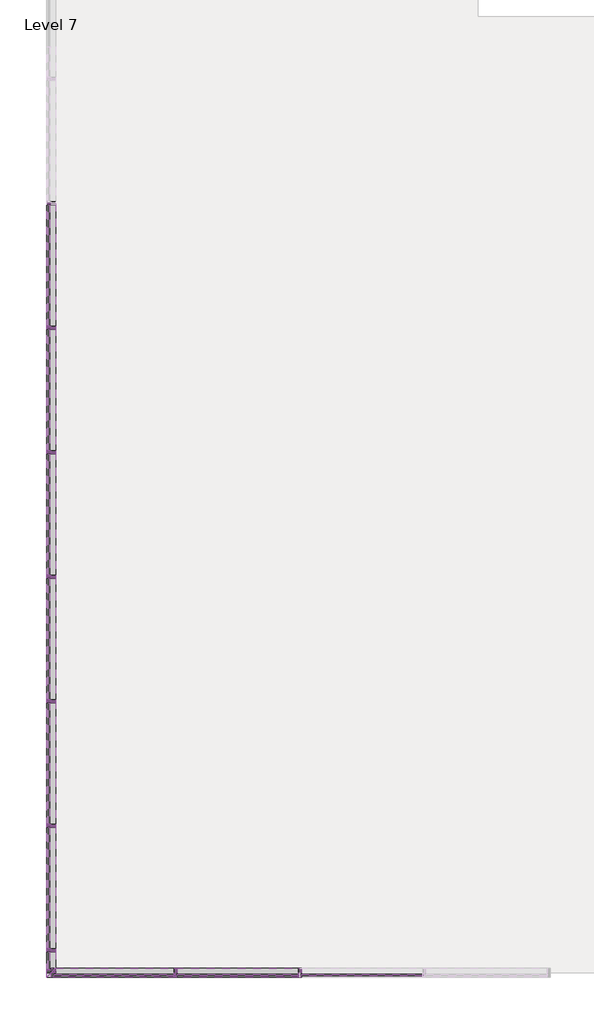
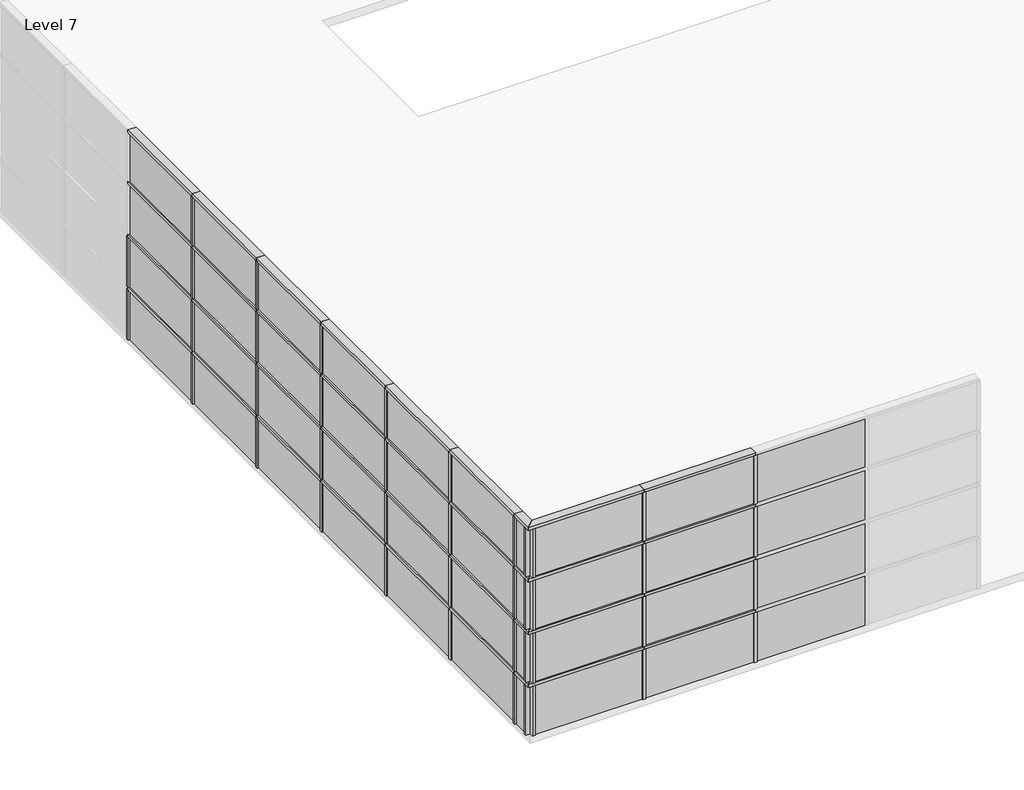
# One storey, part 1 of 5: 78 members, 40 plates.
"""IFC4 building model written with IfcOpenShell, lengths in millimetres."""

from ifc_helpers import new_model, si_unit, origin, place, context, project, spatial, transform, mapped, element, save
from components import rectangular_mullion_50_x_150mm_a053b0ca, rectangular_mullion_50_x_150mm_116cff39, rectangular_mullion_50_x_150mm_aa47fe12, rectangular_mullion_50_x_150mm_3a148f0f, rectangular_mullion_50_x_150mm_a91aaa2b, rectangular_mullion_50_x_150mm_12a430f9, rectangular_mullion_50_x_150mm_7f8cefd5, rectangular_mullion_50_x_150mm_cc09da6b, rectangular_mullion_50_x_150mm_98c2ab41, rectangular_mullion_50_x_150mm_947845bb, system_panel_glazed_92d57a36, system_panel_glazed_751a585c, system_panel_glazed_28c32ad2, system_panel_glazed_08de6f5f, system_panel_glazed_1821110c, system_panel_glazed_9a47c754

model = new_model("IFC4")

# Units and contexts
model_context = context("Model", 3, world=origin())
ifc_project = project(units=[si_unit("LENGTHUNIT", "METRE", prefix="MILLI")], contexts=[model_context])

# Site, building, storey
site = spatial("IfcSite", under=ifc_project)
building = spatial("IfcBuilding", under=site)
storey = spatial("IfcBuildingStorey", under=building, Name="Level 7", Elevation=24000.0)

# Members
placement = place(None, origin())
rectangular_mullion_50_x_150mm_shape = rectangular_mullion_50_x_150mm_a053b0ca(model_context)
element("IfcMember", 1, ObjectType="Rectangular Mullion : 50 x 150mm", at=placement, inside=storey, context=model_context, shape_type="MappedRepresentation", body=[
    mapped(rectangular_mullion_50_x_150mm_shape, transform((-3587.173406, -21988.7417365, 24025.0), x_axis=(1.0, 0.0, 0.0), y_axis=(0.0, -1.0, 0.0), z_axis=(0.0, 0.0, -0.9999999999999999))),
])
element("IfcMember", 2, ObjectType="Rectangular Mullion : 50 x 150mm", at=placement, inside=storey, context=model_context, shape_type="MappedRepresentation", body=[
    mapped(rectangular_mullion_50_x_150mm_shape, transform((-3587.173406, -21988.7417365, 25025.0), x_axis=(1.0, 0.0, 0.0), y_axis=(0.0, -1.0, 0.0), z_axis=(0.0, 0.0, -0.9999999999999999))),
])
element("IfcMember", 3, ObjectType="Rectangular Mullion : 50 x 150mm", at=placement, inside=storey, context=model_context, shape_type="MappedRepresentation", body=[
    mapped(rectangular_mullion_50_x_150mm_shape, transform((-3587.173406, -21988.7417365, 26025.0), x_axis=(1.0, 0.0, 0.0), y_axis=(0.0, -1.0, 0.0), z_axis=(0.0, 0.0, -0.9999999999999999))),
])
element("IfcMember", 4, ObjectType="Rectangular Mullion : 50 x 150mm", at=placement, inside=storey, context=model_context, shape_type="MappedRepresentation", body=[
    mapped(rectangular_mullion_50_x_150mm_shape, transform((-1587.173406, -21988.7417365, 24025.0), x_axis=(1.0, 0.0, 0.0), y_axis=(0.0, -1.0, 0.0), z_axis=(0.0, 0.0, -0.9999999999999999))),
])
element("IfcMember", 5, ObjectType="Rectangular Mullion : 50 x 150mm", at=placement, inside=storey, context=model_context, shape_type="MappedRepresentation", body=[
    mapped(rectangular_mullion_50_x_150mm_shape, transform((-1587.173406, -21988.7417365, 25025.0), x_axis=(1.0, 0.0, 0.0), y_axis=(0.0, -1.0, 0.0), z_axis=(0.0, 0.0, -0.9999999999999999))),
])
element("IfcMember", 6, ObjectType="Rectangular Mullion : 50 x 150mm", at=placement, inside=storey, context=model_context, shape_type="MappedRepresentation", body=[
    mapped(rectangular_mullion_50_x_150mm_shape, transform((-1587.173406, -21988.7417365, 26025.0), x_axis=(1.0, 0.0, 0.0), y_axis=(0.0, -1.0, 0.0), z_axis=(0.0, 0.0, -0.9999999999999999))),
])
element("IfcMember", 7, ObjectType="Rectangular Mullion : 50 x 150mm", at=placement, inside=storey, context=model_context, shape_type="MappedRepresentation", body=[
    mapped(rectangular_mullion_50_x_150mm_shape, transform((-5587.173406, -9624.0160434, 24025.0), x_axis=(0.0, -1.0, 0.0), y_axis=(-1.0, 0.0, 0.0), z_axis=(0.0, 0.0, -0.9999999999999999))),
])
element("IfcMember", 8, ObjectType="Rectangular Mullion : 50 x 150mm", at=placement, inside=storey, context=model_context, shape_type="MappedRepresentation", body=[
    mapped(rectangular_mullion_50_x_150mm_shape, transform((-5587.173406, -9624.0160434, 25025.0), x_axis=(0.0, -1.0, 0.0), y_axis=(-1.0, 0.0, 0.0), z_axis=(0.0, 0.0, -0.9999999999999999))),
])
element("IfcMember", 9, ObjectType="Rectangular Mullion : 50 x 150mm", at=placement, inside=storey, context=model_context, shape_type="MappedRepresentation", body=[
    mapped(rectangular_mullion_50_x_150mm_shape, transform((-5587.173406, -11624.0160434, 24025.0), x_axis=(0.0, -1.0, 0.0), y_axis=(-1.0, 0.0, 0.0), z_axis=(0.0, 0.0, -0.9999999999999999))),
])
element("IfcMember", 10, ObjectType="Rectangular Mullion : 50 x 150mm", at=placement, inside=storey, context=model_context, shape_type="MappedRepresentation", body=[
    mapped(rectangular_mullion_50_x_150mm_shape, transform((-5587.173406, -11624.0160434, 25025.0), x_axis=(0.0, -1.0, 0.0), y_axis=(-1.0, 0.0, 0.0), z_axis=(0.0, 0.0, -0.9999999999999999))),
])
element("IfcMember", 11, ObjectType="Rectangular Mullion : 50 x 150mm", at=placement, inside=storey, context=model_context, shape_type="MappedRepresentation", body=[
    mapped(rectangular_mullion_50_x_150mm_shape, transform((-5587.173406, -11624.0160434, 26025.0), x_axis=(0.0, -1.0, 0.0), y_axis=(-1.0, 0.0, 0.0), z_axis=(0.0, 0.0, -0.9999999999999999))),
])
element("IfcMember", 12, ObjectType="Rectangular Mullion : 50 x 150mm", at=placement, inside=storey, context=model_context, shape_type="MappedRepresentation", body=[
    mapped(rectangular_mullion_50_x_150mm_shape, transform((-5587.173406, -13624.0160434, 24025.0), x_axis=(0.0, -1.0, 0.0), y_axis=(-1.0, 0.0, 0.0), z_axis=(0.0, 0.0, -0.9999999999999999))),
])
element("IfcMember", 13, ObjectType="Rectangular Mullion : 50 x 150mm", at=placement, inside=storey, context=model_context, shape_type="MappedRepresentation", body=[
    mapped(rectangular_mullion_50_x_150mm_shape, transform((-5587.173406, -13624.0160434, 25025.0), x_axis=(0.0, -1.0, 0.0), y_axis=(-1.0, 0.0, 0.0), z_axis=(0.0, 0.0, -0.9999999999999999))),
])
element("IfcMember", 14, ObjectType="Rectangular Mullion : 50 x 150mm", at=placement, inside=storey, context=model_context, shape_type="MappedRepresentation", body=[
    mapped(rectangular_mullion_50_x_150mm_shape, transform((-5587.173406, -13624.0160434, 26025.0), x_axis=(0.0, -1.0, 0.0), y_axis=(-1.0, 0.0, 0.0), z_axis=(0.0, 0.0, -0.9999999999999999))),
])
element("IfcMember", 15, ObjectType="Rectangular Mullion : 50 x 150mm", at=placement, inside=storey, context=model_context, shape_type="MappedRepresentation", body=[
    mapped(rectangular_mullion_50_x_150mm_shape, transform((-5587.173406, -15624.0160434, 24025.0), x_axis=(0.0, -1.0, 0.0), y_axis=(-1.0, 0.0, 0.0), z_axis=(0.0, 0.0, -0.9999999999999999))),
])
element("IfcMember", 16, ObjectType="Rectangular Mullion : 50 x 150mm", at=placement, inside=storey, context=model_context, shape_type="MappedRepresentation", body=[
    mapped(rectangular_mullion_50_x_150mm_shape, transform((-5587.173406, -15624.0160434, 25025.0), x_axis=(0.0, -1.0, 0.0), y_axis=(-1.0, 0.0, 0.0), z_axis=(0.0, 0.0, -0.9999999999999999))),
])
element("IfcMember", 17, ObjectType="Rectangular Mullion : 50 x 150mm", at=placement, inside=storey, context=model_context, shape_type="MappedRepresentation", body=[
    mapped(rectangular_mullion_50_x_150mm_shape, transform((-5587.173406, -15624.0160434, 26025.0), x_axis=(0.0, -1.0, 0.0), y_axis=(-1.0, 0.0, 0.0), z_axis=(0.0, 0.0, -0.9999999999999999))),
])
element("IfcMember", 18, ObjectType="Rectangular Mullion : 50 x 150mm", at=placement, inside=storey, context=model_context, shape_type="MappedRepresentation", body=[
    mapped(rectangular_mullion_50_x_150mm_shape, transform((-5587.173406, -17624.0160434, 24025.0), x_axis=(0.0, -1.0, 0.0), y_axis=(-1.0, 0.0, 0.0), z_axis=(0.0, 0.0, -0.9999999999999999))),
])
element("IfcMember", 19, ObjectType="Rectangular Mullion : 50 x 150mm", at=placement, inside=storey, context=model_context, shape_type="MappedRepresentation", body=[
    mapped(rectangular_mullion_50_x_150mm_shape, transform((-5587.173406, -17624.0160434, 25025.0), x_axis=(0.0, -1.0, 0.0), y_axis=(-1.0, 0.0, 0.0), z_axis=(0.0, 0.0, -0.9999999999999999))),
])
element("IfcMember", 20, ObjectType="Rectangular Mullion : 50 x 150mm", at=placement, inside=storey, context=model_context, shape_type="MappedRepresentation", body=[
    mapped(rectangular_mullion_50_x_150mm_shape, transform((-5587.173406, -17624.0160434, 26025.0), x_axis=(0.0, -1.0, 0.0), y_axis=(-1.0, 0.0, 0.0), z_axis=(0.0, 0.0, -0.9999999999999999))),
])
element("IfcMember", 21, ObjectType="Rectangular Mullion : 50 x 150mm", at=placement, inside=storey, context=model_context, shape_type="MappedRepresentation", body=[
    mapped(rectangular_mullion_50_x_150mm_shape, transform((-5587.173406, -19624.0160434, 24025.0), x_axis=(0.0, -1.0, 0.0), y_axis=(-1.0, 0.0, 0.0), z_axis=(0.0, 0.0, -0.9999999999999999))),
])
element("IfcMember", 22, ObjectType="Rectangular Mullion : 50 x 150mm", at=placement, inside=storey, context=model_context, shape_type="MappedRepresentation", body=[
    mapped(rectangular_mullion_50_x_150mm_shape, transform((-5587.173406, -19624.0160434, 25025.0), x_axis=(0.0, -1.0, 0.0), y_axis=(-1.0, 0.0, 0.0), z_axis=(0.0, 0.0, -0.9999999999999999))),
])
element("IfcMember", 23, ObjectType="Rectangular Mullion : 50 x 150mm", at=placement, inside=storey, context=model_context, shape_type="MappedRepresentation", body=[
    mapped(rectangular_mullion_50_x_150mm_shape, transform((-5587.173406, -19624.0160434, 26025.0), x_axis=(0.0, -1.0, 0.0), y_axis=(-1.0, 0.0, 0.0), z_axis=(0.0, 0.0, -0.9999999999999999))),
])
element("IfcMember", 24, ObjectType="Rectangular Mullion : 50 x 150mm", at=placement, inside=storey, context=model_context, shape_type="MappedRepresentation", body=[
    mapped(rectangular_mullion_50_x_150mm_shape, transform((-5587.173406, -21624.0160434, 24025.0), x_axis=(0.0, -1.0, 0.0), y_axis=(-1.0, 0.0, 0.0), z_axis=(0.0, 0.0, -0.9999999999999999))),
])
element("IfcMember", 25, ObjectType="Rectangular Mullion : 50 x 150mm", at=placement, inside=storey, context=model_context, shape_type="MappedRepresentation", body=[
    mapped(rectangular_mullion_50_x_150mm_shape, transform((-5587.173406, -21624.0160434, 25025.0), x_axis=(0.0, -1.0, 0.0), y_axis=(-1.0, 0.0, 0.0), z_axis=(0.0, 0.0, -0.9999999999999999))),
])
element("IfcMember", 26, ObjectType="Rectangular Mullion : 50 x 150mm", at=placement, inside=storey, context=model_context, shape_type="MappedRepresentation", body=[
    mapped(rectangular_mullion_50_x_150mm_shape, transform((-5587.173406, -21624.0160434, 26025.0), x_axis=(0.0, -1.0, 0.0), y_axis=(-1.0, 0.0, 0.0), z_axis=(0.0, 0.0, -0.9999999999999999))),
])
rectangular_mullion_50_x_150mm_2_shape = rectangular_mullion_50_x_150mm_116cff39(model_context)
element("IfcMember", 27, ObjectType="Rectangular Mullion : 50 x 150mm", at=placement, inside=storey, context=model_context, shape_type="MappedRepresentation", body=[
    mapped(rectangular_mullion_50_x_150mm_2_shape, transform((-3587.173406, -21988.7417365, 27025.0), x_axis=(1.0, 0.0, 0.0), y_axis=(0.0, -1.0, 0.0), z_axis=(0.0, 0.0, -1.0))),
])
element("IfcMember", 28, ObjectType="Rectangular Mullion : 50 x 150mm", at=placement, inside=storey, context=model_context, shape_type="MappedRepresentation", body=[
    mapped(rectangular_mullion_50_x_150mm_2_shape, transform((-1587.173406, -21988.7417365, 27025.0), x_axis=(1.0, 0.0, 0.0), y_axis=(0.0, -1.0, 0.0), z_axis=(0.0, 0.0, -1.0))),
])
element("IfcMember", 29, ObjectType="Rectangular Mullion : 50 x 150mm", at=placement, inside=storey, context=model_context, shape_type="MappedRepresentation", body=[
    mapped(rectangular_mullion_50_x_150mm_2_shape, transform((-5587.173406, -11624.0160434, 27025.0), x_axis=(0.0, -1.0, 0.0), y_axis=(-1.0, 0.0, 0.0), z_axis=(0.0, 0.0, -1.0))),
])
element("IfcMember", 30, ObjectType="Rectangular Mullion : 50 x 150mm", at=placement, inside=storey, context=model_context, shape_type="MappedRepresentation", body=[
    mapped(rectangular_mullion_50_x_150mm_2_shape, transform((-5587.173406, -13624.0160434, 27025.0), x_axis=(0.0, -1.0, 0.0), y_axis=(-1.0, 0.0, 0.0), z_axis=(0.0, 0.0, -1.0))),
])
element("IfcMember", 31, ObjectType="Rectangular Mullion : 50 x 150mm", at=placement, inside=storey, context=model_context, shape_type="MappedRepresentation", body=[
    mapped(rectangular_mullion_50_x_150mm_2_shape, transform((-5587.173406, -15624.0160434, 27025.0), x_axis=(0.0, -1.0, 0.0), y_axis=(-1.0, 0.0, 0.0), z_axis=(0.0, 0.0, -1.0))),
])
element("IfcMember", 32, ObjectType="Rectangular Mullion : 50 x 150mm", at=placement, inside=storey, context=model_context, shape_type="MappedRepresentation", body=[
    mapped(rectangular_mullion_50_x_150mm_2_shape, transform((-5587.173406, -17624.0160434, 27025.0), x_axis=(0.0, -1.0, 0.0), y_axis=(-1.0, 0.0, 0.0), z_axis=(0.0, 0.0, -1.0))),
])
element("IfcMember", 33, ObjectType="Rectangular Mullion : 50 x 150mm", at=placement, inside=storey, context=model_context, shape_type="MappedRepresentation", body=[
    mapped(rectangular_mullion_50_x_150mm_2_shape, transform((-5587.173406, -19624.0160434, 27025.0), x_axis=(0.0, -1.0, 0.0), y_axis=(-1.0, 0.0, 0.0), z_axis=(0.0, 0.0, -1.0))),
])
element("IfcMember", 34, ObjectType="Rectangular Mullion : 50 x 150mm", at=placement, inside=storey, context=model_context, shape_type="MappedRepresentation", body=[
    mapped(rectangular_mullion_50_x_150mm_2_shape, transform((-5587.173406, -21624.0160434, 27025.0), x_axis=(0.0, -1.0, 0.0), y_axis=(-1.0, 0.0, 0.0), z_axis=(0.0, 0.0, -1.0))),
])
rectangular_mullion_50_x_150mm_3_shape = rectangular_mullion_50_x_150mm_aa47fe12(model_context)
element("IfcMember", 35, ObjectType="Rectangular Mullion : 50 x 150mm", at=placement, inside=storey, context=model_context, shape_type="MappedRepresentation", body=[
    mapped(rectangular_mullion_50_x_150mm_3_shape, transform((-1587.173406, -21988.7417365, 28000.0), x_axis=(0.0, 0.0, 1.0), y_axis=(0.0, -1.0, 0.0), z_axis=(1.0, 0.0, 0.0))),
])
element("IfcMember", 36, ObjectType="Rectangular Mullion : 50 x 150mm", at=placement, inside=storey, context=model_context, shape_type="MappedRepresentation", body=[
    mapped(rectangular_mullion_50_x_150mm_3_shape, transform((-5587.173406, -11624.0160434, 28000.0), x_axis=(0.0, 0.0, 1.0), y_axis=(-1.0, 0.0, 0.0), z_axis=(0.0, -1.0, 0.0))),
])
element("IfcMember", 37, ObjectType="Rectangular Mullion : 50 x 150mm", at=placement, inside=storey, context=model_context, shape_type="MappedRepresentation", body=[
    mapped(rectangular_mullion_50_x_150mm_3_shape, transform((-5587.173406, -13624.0160434, 28000.0), x_axis=(0.0, 0.0, 1.0), y_axis=(-1.0, 0.0, 0.0), z_axis=(0.0, -1.0, 0.0))),
])
element("IfcMember", 38, ObjectType="Rectangular Mullion : 50 x 150mm", at=placement, inside=storey, context=model_context, shape_type="MappedRepresentation", body=[
    mapped(rectangular_mullion_50_x_150mm_3_shape, transform((-5587.173406, -15624.0160434, 28000.0), x_axis=(0.0, 0.0, 1.0), y_axis=(-1.0, 0.0, 0.0), z_axis=(0.0, -1.0, 0.0))),
])
element("IfcMember", 39, ObjectType="Rectangular Mullion : 50 x 150mm", at=placement, inside=storey, context=model_context, shape_type="MappedRepresentation", body=[
    mapped(rectangular_mullion_50_x_150mm_3_shape, transform((-5587.173406, -17624.0160434, 28000.0), x_axis=(0.0, 0.0, 1.0), y_axis=(-1.0, 0.0, 0.0), z_axis=(0.0, -1.0, 0.0))),
])
element("IfcMember", 40, ObjectType="Rectangular Mullion : 50 x 150mm", at=placement, inside=storey, context=model_context, shape_type="MappedRepresentation", body=[
    mapped(rectangular_mullion_50_x_150mm_3_shape, transform((-5587.173406, -19624.0160434, 28000.0), x_axis=(0.0, 0.0, 1.0), y_axis=(-1.0, 0.0, 0.0), z_axis=(0.0, -1.0, 0.0))),
])
element("IfcMember", 41, ObjectType="Rectangular Mullion : 50 x 150mm", at=placement, inside=storey, context=model_context, shape_type="MappedRepresentation", body=[
    mapped(rectangular_mullion_50_x_150mm_3_shape, transform((-5587.173406, -21624.0160434, 28000.0), x_axis=(0.0, 0.0, 1.0), y_axis=(-1.0, 0.0, 0.0), z_axis=(0.0, -1.0, 0.0))),
])
rectangular_mullion_50_x_150mm_4_shape = rectangular_mullion_50_x_150mm_3a148f0f(model_context)
element("IfcMember", 42, ObjectType="Rectangular Mullion : 50 x 150mm", at=placement, inside=storey, context=model_context, shape_type="MappedRepresentation", body=[
    mapped(rectangular_mullion_50_x_150mm_4_shape, transform((-1587.173406, -21988.7417365, 25000.0), x_axis=(0.0, 0.0, 1.0), y_axis=(0.0, -1.0, 0.0), z_axis=(1.0, 0.0, 0.0))),
])
element("IfcMember", 43, ObjectType="Rectangular Mullion : 50 x 150mm", at=placement, inside=storey, context=model_context, shape_type="MappedRepresentation", body=[
    mapped(rectangular_mullion_50_x_150mm_4_shape, transform((-1587.173406, -21988.7417365, 26000.0), x_axis=(0.0, 0.0, 1.0), y_axis=(0.0, -1.0, 0.0), z_axis=(1.0, 0.0, 0.0))),
])
element("IfcMember", 44, ObjectType="Rectangular Mullion : 50 x 150mm", at=placement, inside=storey, context=model_context, shape_type="MappedRepresentation", body=[
    mapped(rectangular_mullion_50_x_150mm_4_shape, transform((-1587.173406, -21988.7417365, 27000.0), x_axis=(0.0, 0.0, 1.0), y_axis=(0.0, -1.0, 0.0), z_axis=(1.0, 0.0, 0.0))),
])
element("IfcMember", 45, ObjectType="Rectangular Mullion : 50 x 150mm", at=placement, inside=storey, context=model_context, shape_type="MappedRepresentation", body=[
    mapped(rectangular_mullion_50_x_150mm_4_shape, transform((-5587.173406, -11624.0160434, 25000.0), x_axis=(0.0, 0.0, 1.0), y_axis=(-1.0, 0.0, 0.0), z_axis=(0.0, -1.0, 0.0))),
])
element("IfcMember", 46, ObjectType="Rectangular Mullion : 50 x 150mm", at=placement, inside=storey, context=model_context, shape_type="MappedRepresentation", body=[
    mapped(rectangular_mullion_50_x_150mm_4_shape, transform((-5587.173406, -13624.0160434, 25000.0), x_axis=(0.0, 0.0, 1.0), y_axis=(-1.0, 0.0, 0.0), z_axis=(0.0, -1.0, 0.0))),
])
element("IfcMember", 47, ObjectType="Rectangular Mullion : 50 x 150mm", at=placement, inside=storey, context=model_context, shape_type="MappedRepresentation", body=[
    mapped(rectangular_mullion_50_x_150mm_4_shape, transform((-5587.173406, -15624.0160434, 25000.0), x_axis=(0.0, 0.0, 1.0), y_axis=(-1.0, 0.0, 0.0), z_axis=(0.0, -1.0, 0.0))),
])
element("IfcMember", 48, ObjectType="Rectangular Mullion : 50 x 150mm", at=placement, inside=storey, context=model_context, shape_type="MappedRepresentation", body=[
    mapped(rectangular_mullion_50_x_150mm_4_shape, transform((-5587.173406, -17624.0160434, 25000.0), x_axis=(0.0, 0.0, 1.0), y_axis=(-1.0, 0.0, 0.0), z_axis=(0.0, -1.0, 0.0))),
])
element("IfcMember", 49, ObjectType="Rectangular Mullion : 50 x 150mm", at=placement, inside=storey, context=model_context, shape_type="MappedRepresentation", body=[
    mapped(rectangular_mullion_50_x_150mm_4_shape, transform((-5587.173406, -19624.0160434, 25000.0), x_axis=(0.0, 0.0, 1.0), y_axis=(-1.0, 0.0, 0.0), z_axis=(0.0, -1.0, 0.0))),
])
element("IfcMember", 50, ObjectType="Rectangular Mullion : 50 x 150mm", at=placement, inside=storey, context=model_context, shape_type="MappedRepresentation", body=[
    mapped(rectangular_mullion_50_x_150mm_4_shape, transform((-5587.173406, -21624.0160434, 25000.0), x_axis=(0.0, 0.0, 1.0), y_axis=(-1.0, 0.0, 0.0), z_axis=(0.0, -1.0, 0.0))),
])
element("IfcMember", 51, ObjectType="Rectangular Mullion : 50 x 150mm", at=placement, inside=storey, context=model_context, shape_type="MappedRepresentation", body=[
    mapped(rectangular_mullion_50_x_150mm_4_shape, transform((-5587.173406, -11624.0160434, 26000.0), x_axis=(0.0, 0.0, 1.0), y_axis=(-1.0, 0.0, 0.0), z_axis=(0.0, -1.0, 0.0))),
])
element("IfcMember", 52, ObjectType="Rectangular Mullion : 50 x 150mm", at=placement, inside=storey, context=model_context, shape_type="MappedRepresentation", body=[
    mapped(rectangular_mullion_50_x_150mm_4_shape, transform((-5587.173406, -13624.0160434, 26000.0), x_axis=(0.0, 0.0, 1.0), y_axis=(-1.0, 0.0, 0.0), z_axis=(0.0, -1.0, 0.0))),
])
element("IfcMember", 53, ObjectType="Rectangular Mullion : 50 x 150mm", at=placement, inside=storey, context=model_context, shape_type="MappedRepresentation", body=[
    mapped(rectangular_mullion_50_x_150mm_4_shape, transform((-5587.173406, -15624.0160434, 26000.0), x_axis=(0.0, 0.0, 1.0), y_axis=(-1.0, 0.0, 0.0), z_axis=(0.0, -1.0, 0.0))),
])
element("IfcMember", 54, ObjectType="Rectangular Mullion : 50 x 150mm", at=placement, inside=storey, context=model_context, shape_type="MappedRepresentation", body=[
    mapped(rectangular_mullion_50_x_150mm_4_shape, transform((-5587.173406, -17624.0160434, 26000.0), x_axis=(0.0, 0.0, 1.0), y_axis=(-1.0, 0.0, 0.0), z_axis=(0.0, -1.0, 0.0))),
])
element("IfcMember", 55, ObjectType="Rectangular Mullion : 50 x 150mm", at=placement, inside=storey, context=model_context, shape_type="MappedRepresentation", body=[
    mapped(rectangular_mullion_50_x_150mm_4_shape, transform((-5587.173406, -19624.0160434, 26000.0), x_axis=(0.0, 0.0, 1.0), y_axis=(-1.0, 0.0, 0.0), z_axis=(0.0, -1.0, 0.0))),
])
element("IfcMember", 56, ObjectType="Rectangular Mullion : 50 x 150mm", at=placement, inside=storey, context=model_context, shape_type="MappedRepresentation", body=[
    mapped(rectangular_mullion_50_x_150mm_4_shape, transform((-5587.173406, -21624.0160434, 26000.0), x_axis=(0.0, 0.0, 1.0), y_axis=(-1.0, 0.0, 0.0), z_axis=(0.0, -1.0, 0.0))),
])
element("IfcMember", 57, ObjectType="Rectangular Mullion : 50 x 150mm", at=placement, inside=storey, context=model_context, shape_type="MappedRepresentation", body=[
    mapped(rectangular_mullion_50_x_150mm_4_shape, transform((-5587.173406, -11624.0160434, 27000.0), x_axis=(0.0, 0.0, 1.0), y_axis=(-1.0, 0.0, 0.0), z_axis=(0.0, -1.0, 0.0))),
])
element("IfcMember", 58, ObjectType="Rectangular Mullion : 50 x 150mm", at=placement, inside=storey, context=model_context, shape_type="MappedRepresentation", body=[
    mapped(rectangular_mullion_50_x_150mm_4_shape, transform((-5587.173406, -13624.0160434, 27000.0), x_axis=(0.0, 0.0, 1.0), y_axis=(-1.0, 0.0, 0.0), z_axis=(0.0, -1.0, 0.0))),
])
element("IfcMember", 59, ObjectType="Rectangular Mullion : 50 x 150mm", at=placement, inside=storey, context=model_context, shape_type="MappedRepresentation", body=[
    mapped(rectangular_mullion_50_x_150mm_4_shape, transform((-5587.173406, -15624.0160434, 27000.0), x_axis=(0.0, 0.0, 1.0), y_axis=(-1.0, 0.0, 0.0), z_axis=(0.0, -1.0, 0.0))),
])
element("IfcMember", 60, ObjectType="Rectangular Mullion : 50 x 150mm", at=placement, inside=storey, context=model_context, shape_type="MappedRepresentation", body=[
    mapped(rectangular_mullion_50_x_150mm_4_shape, transform((-5587.173406, -17624.0160434, 27000.0), x_axis=(0.0, 0.0, 1.0), y_axis=(-1.0, 0.0, 0.0), z_axis=(0.0, -1.0, 0.0))),
])
element("IfcMember", 61, ObjectType="Rectangular Mullion : 50 x 150mm", at=placement, inside=storey, context=model_context, shape_type="MappedRepresentation", body=[
    mapped(rectangular_mullion_50_x_150mm_4_shape, transform((-5587.173406, -19624.0160434, 27000.0), x_axis=(0.0, 0.0, 1.0), y_axis=(-1.0, 0.0, 0.0), z_axis=(0.0, -1.0, 0.0))),
])
element("IfcMember", 62, ObjectType="Rectangular Mullion : 50 x 150mm", at=placement, inside=storey, context=model_context, shape_type="MappedRepresentation", body=[
    mapped(rectangular_mullion_50_x_150mm_4_shape, transform((-5587.173406, -21624.0160434, 27000.0), x_axis=(0.0, 0.0, 1.0), y_axis=(-1.0, 0.0, 0.0), z_axis=(0.0, -1.0, 0.0))),
])
rectangular_mullion_50_x_150mm_5_shape = rectangular_mullion_50_x_150mm_a91aaa2b(model_context)
element("IfcMember", 63, ObjectType="Rectangular Mullion : 50 x 150mm", at=placement, inside=storey, context=model_context, shape_type="MappedRepresentation", body=[
    mapped(rectangular_mullion_50_x_150mm_5_shape, transform((-5587.173406, -21988.7417365, 27950.0), x_axis=(-1.0, 0.0, 0.0), y_axis=(0.0, -1.0, 0.0), z_axis=(0.0, 0.0, 1.0))),
])
rectangular_mullion_50_x_150mm_6_shape = rectangular_mullion_50_x_150mm_12a430f9(model_context)
element("IfcMember", 64, ObjectType="Rectangular Mullion : 50 x 150mm", at=placement, inside=storey, context=model_context, shape_type="MappedRepresentation", body=[
    mapped(rectangular_mullion_50_x_150mm_6_shape, transform((-5587.173406, -21988.7417365, 24975.0), x_axis=(-1.0, 0.0, 0.0), y_axis=(0.0, -1.0, 0.0), z_axis=(0.0, 0.0, 0.9999999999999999))),
])
element("IfcMember", 65, ObjectType="Rectangular Mullion : 50 x 150mm", at=placement, inside=storey, context=model_context, shape_type="MappedRepresentation", body=[
    mapped(rectangular_mullion_50_x_150mm_6_shape, transform((-5587.173406, -21988.7417365, 25975.0), x_axis=(-1.0, 0.0, 0.0), y_axis=(0.0, -1.0, 0.0), z_axis=(0.0, 0.0, 0.9999999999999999))),
])
element("IfcMember", 66, ObjectType="Rectangular Mullion : 50 x 150mm", at=placement, inside=storey, context=model_context, shape_type="MappedRepresentation", body=[
    mapped(rectangular_mullion_50_x_150mm_6_shape, transform((-5587.173406, -21988.7417365, 26975.0), x_axis=(-1.0, 0.0, 0.0), y_axis=(0.0, -1.0, 0.0), z_axis=(0.0, 0.0, 0.9999999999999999))),
])
element("IfcMember", 67, ObjectType="Rectangular Mullion : 50 x 150mm", at=placement, inside=storey, context=model_context, shape_type="MappedRepresentation", body=[
    mapped(rectangular_mullion_50_x_150mm_6_shape, transform((-5587.173406, -21988.7417365, 24025.0), x_axis=(0.0, -1.0, 0.0), y_axis=(-1.0, 0.0, 0.0), z_axis=(0.0, 0.0, -0.9999999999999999))),
])
element("IfcMember", 68, ObjectType="Rectangular Mullion : 50 x 150mm", at=placement, inside=storey, context=model_context, shape_type="MappedRepresentation", body=[
    mapped(rectangular_mullion_50_x_150mm_6_shape, transform((-5587.173406, -21988.7417365, 25025.0), x_axis=(0.0, -1.0, 0.0), y_axis=(-1.0, 0.0, 0.0), z_axis=(0.0, 0.0, -0.9999999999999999))),
])
element("IfcMember", 69, ObjectType="Rectangular Mullion : 50 x 150mm", at=placement, inside=storey, context=model_context, shape_type="MappedRepresentation", body=[
    mapped(rectangular_mullion_50_x_150mm_6_shape, transform((-5587.173406, -21988.7417365, 26025.0), x_axis=(0.0, -1.0, 0.0), y_axis=(-1.0, 0.0, 0.0), z_axis=(0.0, 0.0, -0.9999999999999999))),
])
element("IfcMember", 70, ObjectType="Rectangular Mullion : 50 x 150mm", at=placement, inside=storey, context=model_context, shape_type="MappedRepresentation", body=[
    mapped(rectangular_mullion_50_x_150mm_5_shape, transform((-5587.173406, -21988.7417365, 27025.0), x_axis=(0.0, -1.0, 0.0), y_axis=(-1.0, 0.0, 0.0), z_axis=(0.0, 0.0, -1.0))),
])
rectangular_mullion_50_x_150mm_7_shape = rectangular_mullion_50_x_150mm_7f8cefd5(model_context)
element("IfcMember", 71, ObjectType="Rectangular Mullion : 50 x 150mm", at=placement, inside=storey, context=model_context, shape_type="MappedRepresentation", body=[
    mapped(rectangular_mullion_50_x_150mm_7_shape, transform((-5587.173406, -21988.7417365, 28000.0), x_axis=(0.0, 0.0, 1.0), y_axis=(-1.0, 0.0, 0.0), z_axis=(0.0, -1.0, 0.0))),
])
rectangular_mullion_50_x_150mm_8_shape = rectangular_mullion_50_x_150mm_cc09da6b(model_context)
element("IfcMember", 72, ObjectType="Rectangular Mullion : 50 x 150mm", at=placement, inside=storey, context=model_context, shape_type="MappedRepresentation", body=[
    mapped(rectangular_mullion_50_x_150mm_8_shape, transform((-5587.173406, -21988.7417365, 25000.0), x_axis=(0.0, 0.0, 1.0), y_axis=(-1.0, 0.0, 0.0), z_axis=(0.0, -1.0, 0.0))),
])
element("IfcMember", 73, ObjectType="Rectangular Mullion : 50 x 150mm", at=placement, inside=storey, context=model_context, shape_type="MappedRepresentation", body=[
    mapped(rectangular_mullion_50_x_150mm_8_shape, transform((-5587.173406, -21988.7417365, 26000.0), x_axis=(0.0, 0.0, 1.0), y_axis=(-1.0, 0.0, 0.0), z_axis=(0.0, -1.0, 0.0))),
])
element("IfcMember", 74, ObjectType="Rectangular Mullion : 50 x 150mm", at=placement, inside=storey, context=model_context, shape_type="MappedRepresentation", body=[
    mapped(rectangular_mullion_50_x_150mm_8_shape, transform((-5587.173406, -21988.7417365, 27000.0), x_axis=(0.0, 0.0, 1.0), y_axis=(-1.0, 0.0, 0.0), z_axis=(0.0, -1.0, 0.0))),
])
rectangular_mullion_50_x_150mm_9_shape = rectangular_mullion_50_x_150mm_98c2ab41(model_context)
element("IfcMember", 75, ObjectType="Rectangular Mullion : 50 x 150mm", at=placement, inside=storey, context=model_context, shape_type="MappedRepresentation", body=[
    mapped(rectangular_mullion_50_x_150mm_9_shape, transform((-3587.173406, -21988.7417365, 28000.0), x_axis=(0.0, 0.0, 1.0), y_axis=(0.0, -1.0, 0.0), z_axis=(1.0, 0.0, 0.0))),
])
rectangular_mullion_50_x_150mm_10_shape = rectangular_mullion_50_x_150mm_947845bb(model_context)
element("IfcMember", 76, ObjectType="Rectangular Mullion : 50 x 150mm", at=placement, inside=storey, context=model_context, shape_type="MappedRepresentation", body=[
    mapped(rectangular_mullion_50_x_150mm_10_shape, transform((-3587.173406, -21988.7417365, 25000.0), x_axis=(0.0, 0.0, 1.0), y_axis=(0.0, -1.0, 0.0), z_axis=(1.0, 0.0, 0.0))),
])
element("IfcMember", 77, ObjectType="Rectangular Mullion : 50 x 150mm", at=placement, inside=storey, context=model_context, shape_type="MappedRepresentation", body=[
    mapped(rectangular_mullion_50_x_150mm_10_shape, transform((-3587.173406, -21988.7417365, 26000.0), x_axis=(0.0, 0.0, 1.0), y_axis=(0.0, -1.0, 0.0), z_axis=(1.0, 0.0, 0.0))),
])
element("IfcMember", 78, ObjectType="Rectangular Mullion : 50 x 150mm", at=placement, inside=storey, context=model_context, shape_type="MappedRepresentation", body=[
    mapped(rectangular_mullion_50_x_150mm_10_shape, transform((-3587.173406, -21988.7417365, 27000.0), x_axis=(0.0, 0.0, 1.0), y_axis=(0.0, -1.0, 0.0), z_axis=(1.0, 0.0, 0.0))),
])

# Plates
system_panel_glazed_shape = system_panel_glazed_92d57a36(model_context)
element("IfcPlate", 79, ObjectType="System Panel : Glazed", at=placement, inside=storey, context=model_context, shape_type="MappedRepresentation", body=[
    mapped(system_panel_glazed_shape, transform((-5537.173406, -21988.7417365, 27487.5), x_axis=(0.0, 0.0, 1.0), y_axis=(0.0, -1.0, 0.0), z_axis=(1.0, 0.0, 0.0))),
])
system_panel_glazed_2_shape = system_panel_glazed_751a585c(model_context)
element("IfcPlate", 80, ObjectType="System Panel : Glazed", at=placement, inside=storey, context=model_context, shape_type="MappedRepresentation", body=[
    mapped(system_panel_glazed_2_shape, transform((-5537.173406, -21988.7417365, 24500.0), x_axis=(0.0, 0.0, 1.0), y_axis=(0.0, -1.0, 0.0), z_axis=(1.0, 0.0, 0.0))),
])
element("IfcPlate", 81, ObjectType="System Panel : Glazed", at=placement, inside=storey, context=model_context, shape_type="MappedRepresentation", body=[
    mapped(system_panel_glazed_2_shape, transform((-5537.173406, -21988.7417365, 25500.0), x_axis=(0.0, 0.0, 1.0), y_axis=(0.0, -1.0, 0.0), z_axis=(1.0, 0.0, 0.0))),
])
element("IfcPlate", 82, ObjectType="System Panel : Glazed", at=placement, inside=storey, context=model_context, shape_type="MappedRepresentation", body=[
    mapped(system_panel_glazed_2_shape, transform((-5537.173406, -21988.7417365, 26500.0), x_axis=(0.0, 0.0, 1.0), y_axis=(0.0, -1.0, 0.0), z_axis=(1.0, 0.0, 0.0))),
])
system_panel_glazed_3_shape = system_panel_glazed_28c32ad2(model_context)
element("IfcPlate", 83, ObjectType="System Panel : Glazed", at=placement, inside=storey, context=model_context, shape_type="MappedRepresentation", body=[
    mapped(system_panel_glazed_3_shape, transform((-5587.173406, -9649.0160434, 27487.5), x_axis=(0.0, 0.0, 1.0), y_axis=(-1.0, 0.0, 0.0), z_axis=(0.0, -1.0, 0.0))),
])
element("IfcPlate", 84, ObjectType="System Panel : Glazed", at=placement, inside=storey, context=model_context, shape_type="MappedRepresentation", body=[
    mapped(system_panel_glazed_3_shape, transform((-5587.173406, -11649.0160434, 27487.5), x_axis=(0.0, 0.0, 1.0), y_axis=(-1.0, 0.0, 0.0), z_axis=(0.0, -1.0, 0.0))),
])
element("IfcPlate", 85, ObjectType="System Panel : Glazed", at=placement, inside=storey, context=model_context, shape_type="MappedRepresentation", body=[
    mapped(system_panel_glazed_3_shape, transform((-5587.173406, -13649.0160434, 27487.5), x_axis=(0.0, 0.0, 1.0), y_axis=(-1.0, 0.0, 0.0), z_axis=(0.0, -1.0, 0.0))),
])
element("IfcPlate", 86, ObjectType="System Panel : Glazed", at=placement, inside=storey, context=model_context, shape_type="MappedRepresentation", body=[
    mapped(system_panel_glazed_3_shape, transform((-5587.173406, -15649.0160434, 27487.5), x_axis=(0.0, 0.0, 1.0), y_axis=(-1.0, 0.0, 0.0), z_axis=(0.0, -1.0, 0.0))),
])
element("IfcPlate", 87, ObjectType="System Panel : Glazed", at=placement, inside=storey, context=model_context, shape_type="MappedRepresentation", body=[
    mapped(system_panel_glazed_3_shape, transform((-5587.173406, -17649.0160434, 27487.5), x_axis=(0.0, 0.0, 1.0), y_axis=(-1.0, 0.0, 0.0), z_axis=(0.0, -1.0, 0.0))),
])
element("IfcPlate", 88, ObjectType="System Panel : Glazed", at=placement, inside=storey, context=model_context, shape_type="MappedRepresentation", body=[
    mapped(system_panel_glazed_3_shape, transform((-5587.173406, -19649.0160434, 27487.5), x_axis=(0.0, 0.0, 1.0), y_axis=(-1.0, 0.0, 0.0), z_axis=(0.0, -1.0, 0.0))),
])
element("IfcPlate", 89, ObjectType="System Panel : Glazed", at=placement, inside=storey, context=model_context, shape_type="MappedRepresentation", body=[
    mapped(system_panel_glazed_3_shape, transform((-3562.173406, -21988.7417365, 27487.5), x_axis=(0.0, 0.0, 1.0), y_axis=(0.0, -1.0, 0.0), z_axis=(1.0, 0.0, 0.0))),
])
element("IfcPlate", 90, ObjectType="System Panel : Glazed", at=placement, inside=storey, context=model_context, shape_type="MappedRepresentation", body=[
    mapped(system_panel_glazed_3_shape, transform((-1562.173406, -21988.7417365, 27487.5), x_axis=(0.0, 0.0, 1.0), y_axis=(0.0, -1.0, 0.0), z_axis=(1.0, 0.0, 0.0))),
])
system_panel_glazed_4_shape = system_panel_glazed_08de6f5f(model_context)
element("IfcPlate", 91, ObjectType="System Panel : Glazed", at=placement, inside=storey, context=model_context, shape_type="MappedRepresentation", body=[
    mapped(system_panel_glazed_4_shape, transform((-5587.173406, -9649.0160434, 24500.0), x_axis=(0.0, 0.0, 1.0), y_axis=(-1.0, 0.0, 0.0), z_axis=(0.0, -1.0, 0.0))),
])
element("IfcPlate", 92, ObjectType="System Panel : Glazed", at=placement, inside=storey, context=model_context, shape_type="MappedRepresentation", body=[
    mapped(system_panel_glazed_4_shape, transform((-5587.173406, -11649.0160434, 24500.0), x_axis=(0.0, 0.0, 1.0), y_axis=(-1.0, 0.0, 0.0), z_axis=(0.0, -1.0, 0.0))),
])
element("IfcPlate", 93, ObjectType="System Panel : Glazed", at=placement, inside=storey, context=model_context, shape_type="MappedRepresentation", body=[
    mapped(system_panel_glazed_4_shape, transform((-5587.173406, -13649.0160434, 24500.0), x_axis=(0.0, 0.0, 1.0), y_axis=(-1.0, 0.0, 0.0), z_axis=(0.0, -1.0, 0.0))),
])
element("IfcPlate", 94, ObjectType="System Panel : Glazed", at=placement, inside=storey, context=model_context, shape_type="MappedRepresentation", body=[
    mapped(system_panel_glazed_4_shape, transform((-5587.173406, -15649.0160434, 24500.0), x_axis=(0.0, 0.0, 1.0), y_axis=(-1.0, 0.0, 0.0), z_axis=(0.0, -1.0, 0.0))),
])
element("IfcPlate", 95, ObjectType="System Panel : Glazed", at=placement, inside=storey, context=model_context, shape_type="MappedRepresentation", body=[
    mapped(system_panel_glazed_4_shape, transform((-5587.173406, -17649.0160434, 24500.0), x_axis=(0.0, 0.0, 1.0), y_axis=(-1.0, 0.0, 0.0), z_axis=(0.0, -1.0, 0.0))),
])
element("IfcPlate", 96, ObjectType="System Panel : Glazed", at=placement, inside=storey, context=model_context, shape_type="MappedRepresentation", body=[
    mapped(system_panel_glazed_4_shape, transform((-5587.173406, -19649.0160434, 24500.0), x_axis=(0.0, 0.0, 1.0), y_axis=(-1.0, 0.0, 0.0), z_axis=(0.0, -1.0, 0.0))),
])
element("IfcPlate", 97, ObjectType="System Panel : Glazed", at=placement, inside=storey, context=model_context, shape_type="MappedRepresentation", body=[
    mapped(system_panel_glazed_4_shape, transform((-5587.173406, -9649.0160434, 25500.0), x_axis=(0.0, 0.0, 1.0), y_axis=(-1.0, 0.0, 0.0), z_axis=(0.0, -1.0, 0.0))),
])
element("IfcPlate", 98, ObjectType="System Panel : Glazed", at=placement, inside=storey, context=model_context, shape_type="MappedRepresentation", body=[
    mapped(system_panel_glazed_4_shape, transform((-5587.173406, -11649.0160434, 25500.0), x_axis=(0.0, 0.0, 1.0), y_axis=(-1.0, 0.0, 0.0), z_axis=(0.0, -1.0, 0.0))),
])
element("IfcPlate", 99, ObjectType="System Panel : Glazed", at=placement, inside=storey, context=model_context, shape_type="MappedRepresentation", body=[
    mapped(system_panel_glazed_4_shape, transform((-5587.173406, -13649.0160434, 25500.0), x_axis=(0.0, 0.0, 1.0), y_axis=(-1.0, 0.0, 0.0), z_axis=(0.0, -1.0, 0.0))),
])
element("IfcPlate", 100, ObjectType="System Panel : Glazed", at=placement, inside=storey, context=model_context, shape_type="MappedRepresentation", body=[
    mapped(system_panel_glazed_4_shape, transform((-5587.173406, -15649.0160434, 25500.0), x_axis=(0.0, 0.0, 1.0), y_axis=(-1.0, 0.0, 0.0), z_axis=(0.0, -1.0, 0.0))),
])
element("IfcPlate", 101, ObjectType="System Panel : Glazed", at=placement, inside=storey, context=model_context, shape_type="MappedRepresentation", body=[
    mapped(system_panel_glazed_4_shape, transform((-5587.173406, -17649.0160434, 25500.0), x_axis=(0.0, 0.0, 1.0), y_axis=(-1.0, 0.0, 0.0), z_axis=(0.0, -1.0, 0.0))),
])
element("IfcPlate", 102, ObjectType="System Panel : Glazed", at=placement, inside=storey, context=model_context, shape_type="MappedRepresentation", body=[
    mapped(system_panel_glazed_4_shape, transform((-5587.173406, -19649.0160434, 25500.0), x_axis=(0.0, 0.0, 1.0), y_axis=(-1.0, 0.0, 0.0), z_axis=(0.0, -1.0, 0.0))),
])
element("IfcPlate", 103, ObjectType="System Panel : Glazed", at=placement, inside=storey, context=model_context, shape_type="MappedRepresentation", body=[
    mapped(system_panel_glazed_4_shape, transform((-5587.173406, -9649.0160434, 26500.0), x_axis=(0.0, 0.0, 1.0), y_axis=(-1.0, 0.0, 0.0), z_axis=(0.0, -1.0, 0.0))),
])
element("IfcPlate", 104, ObjectType="System Panel : Glazed", at=placement, inside=storey, context=model_context, shape_type="MappedRepresentation", body=[
    mapped(system_panel_glazed_4_shape, transform((-5587.173406, -11649.0160434, 26500.0), x_axis=(0.0, 0.0, 1.0), y_axis=(-1.0, 0.0, 0.0), z_axis=(0.0, -1.0, 0.0))),
])
element("IfcPlate", 105, ObjectType="System Panel : Glazed", at=placement, inside=storey, context=model_context, shape_type="MappedRepresentation", body=[
    mapped(system_panel_glazed_4_shape, transform((-5587.173406, -13649.0160434, 26500.0), x_axis=(0.0, 0.0, 1.0), y_axis=(-1.0, 0.0, 0.0), z_axis=(0.0, -1.0, 0.0))),
])
element("IfcPlate", 106, ObjectType="System Panel : Glazed", at=placement, inside=storey, context=model_context, shape_type="MappedRepresentation", body=[
    mapped(system_panel_glazed_4_shape, transform((-5587.173406, -15649.0160434, 26500.0), x_axis=(0.0, 0.0, 1.0), y_axis=(-1.0, 0.0, 0.0), z_axis=(0.0, -1.0, 0.0))),
])
element("IfcPlate", 107, ObjectType="System Panel : Glazed", at=placement, inside=storey, context=model_context, shape_type="MappedRepresentation", body=[
    mapped(system_panel_glazed_4_shape, transform((-5587.173406, -17649.0160434, 26500.0), x_axis=(0.0, 0.0, 1.0), y_axis=(-1.0, 0.0, 0.0), z_axis=(0.0, -1.0, 0.0))),
])
element("IfcPlate", 108, ObjectType="System Panel : Glazed", at=placement, inside=storey, context=model_context, shape_type="MappedRepresentation", body=[
    mapped(system_panel_glazed_4_shape, transform((-5587.173406, -19649.0160434, 26500.0), x_axis=(0.0, 0.0, 1.0), y_axis=(-1.0, 0.0, 0.0), z_axis=(0.0, -1.0, 0.0))),
])
element("IfcPlate", 109, ObjectType="System Panel : Glazed", at=placement, inside=storey, context=model_context, shape_type="MappedRepresentation", body=[
    mapped(system_panel_glazed_4_shape, transform((-3562.173406, -21988.7417365, 24500.0), x_axis=(0.0, 0.0, 1.0), y_axis=(0.0, -1.0, 0.0), z_axis=(1.0, 0.0, 0.0))),
])
element("IfcPlate", 110, ObjectType="System Panel : Glazed", at=placement, inside=storey, context=model_context, shape_type="MappedRepresentation", body=[
    mapped(system_panel_glazed_4_shape, transform((-1562.173406, -21988.7417365, 24500.0), x_axis=(0.0, 0.0, 1.0), y_axis=(0.0, -1.0, 0.0), z_axis=(1.0, 0.0, 0.0))),
])
element("IfcPlate", 111, ObjectType="System Panel : Glazed", at=placement, inside=storey, context=model_context, shape_type="MappedRepresentation", body=[
    mapped(system_panel_glazed_4_shape, transform((-3562.173406, -21988.7417365, 25500.0), x_axis=(0.0, 0.0, 1.0), y_axis=(0.0, -1.0, 0.0), z_axis=(1.0, 0.0, 0.0))),
])
element("IfcPlate", 112, ObjectType="System Panel : Glazed", at=placement, inside=storey, context=model_context, shape_type="MappedRepresentation", body=[
    mapped(system_panel_glazed_4_shape, transform((-1562.173406, -21988.7417365, 25500.0), x_axis=(0.0, 0.0, 1.0), y_axis=(0.0, -1.0, 0.0), z_axis=(1.0, 0.0, 0.0))),
])
element("IfcPlate", 113, ObjectType="System Panel : Glazed", at=placement, inside=storey, context=model_context, shape_type="MappedRepresentation", body=[
    mapped(system_panel_glazed_4_shape, transform((-3562.173406, -21988.7417365, 26500.0), x_axis=(0.0, 0.0, 1.0), y_axis=(0.0, -1.0, 0.0), z_axis=(1.0, 0.0, 0.0))),
])
element("IfcPlate", 114, ObjectType="System Panel : Glazed", at=placement, inside=storey, context=model_context, shape_type="MappedRepresentation", body=[
    mapped(system_panel_glazed_4_shape, transform((-1562.173406, -21988.7417365, 26500.0), x_axis=(0.0, 0.0, 1.0), y_axis=(0.0, -1.0, 0.0), z_axis=(1.0, 0.0, 0.0))),
])
system_panel_glazed_5_shape = system_panel_glazed_1821110c(model_context)
element("IfcPlate", 115, ObjectType="System Panel : Glazed", at=placement, inside=storey, context=model_context, shape_type="MappedRepresentation", body=[
    mapped(system_panel_glazed_5_shape, transform((-5587.173406, -21649.0160434, 27487.5), x_axis=(0.0, 0.0, 1.0), y_axis=(-1.0, 0.0, 0.0), z_axis=(0.0, -1.0, 0.0))),
])
system_panel_glazed_6_shape = system_panel_glazed_9a47c754(model_context)
element("IfcPlate", 116, ObjectType="System Panel : Glazed", at=placement, inside=storey, context=model_context, shape_type="MappedRepresentation", body=[
    mapped(system_panel_glazed_6_shape, transform((-5587.173406, -21649.0160434, 24500.0), x_axis=(0.0, 0.0, 1.0), y_axis=(-1.0, 0.0, 0.0), z_axis=(0.0, -1.0, 0.0))),
])
element("IfcPlate", 117, ObjectType="System Panel : Glazed", at=placement, inside=storey, context=model_context, shape_type="MappedRepresentation", body=[
    mapped(system_panel_glazed_6_shape, transform((-5587.173406, -21649.0160434, 25500.0), x_axis=(0.0, 0.0, 1.0), y_axis=(-1.0, 0.0, 0.0), z_axis=(0.0, -1.0, 0.0))),
])
element("IfcPlate", 118, ObjectType="System Panel : Glazed", at=placement, inside=storey, context=model_context, shape_type="MappedRepresentation", body=[
    mapped(system_panel_glazed_6_shape, transform((-5587.173406, -21649.0160434, 26500.0), x_axis=(0.0, 0.0, 1.0), y_axis=(-1.0, 0.0, 0.0), z_axis=(0.0, -1.0, 0.0))),
])

save(model, "model.ifc")
